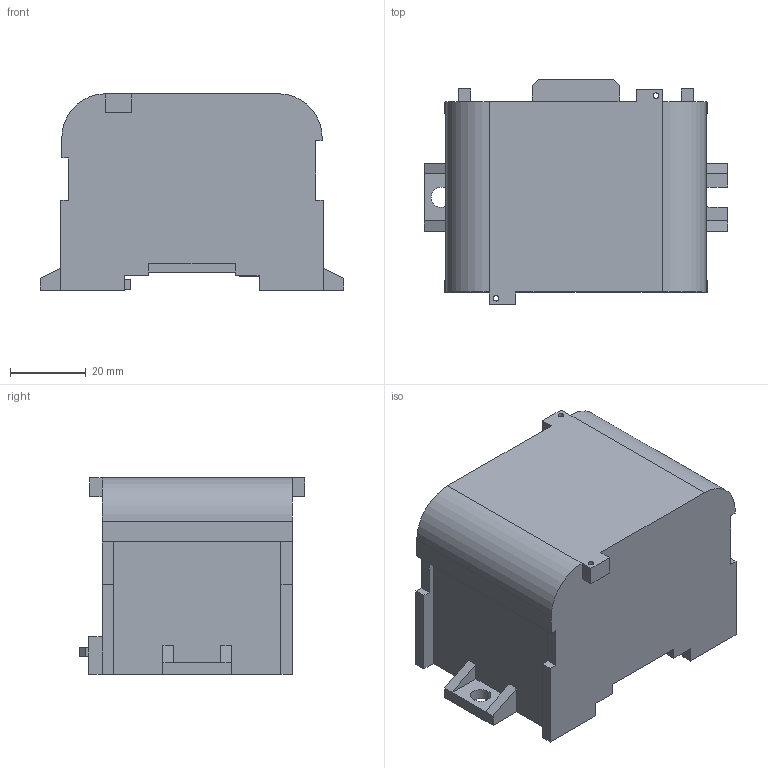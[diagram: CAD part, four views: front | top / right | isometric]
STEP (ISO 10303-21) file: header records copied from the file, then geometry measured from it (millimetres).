
FILE_DESCRIPTION(/* description */ ('Unknown'),/* implementation_level */ '2;1');
FILE_NAME(/* name */ 'DTB 120_8x16',/* time_stamp */ '2024-05-27T06:32:19+02:00',/* author */ ('Unknown'),/* organization */ ('Unknown'),/* preprocessor_version */ 'ST-DEVELOPER v19.4',/* originating_system */ 'Solid Edge',/* authorisation */ 'Unknown');
FILE_SCHEMA (('AUTOMOTIVE_DESIGN {1 0 10303 214 3 1 1}'));
Length unit declared in the file: millimetre
Products named in the file (1): DTB 120_8x16
Bounding box: 80.2 x 59.6 x 52 mm (x, y, z)
Volume: 143273.5 mm3; surface area: 23016.3 mm2
Topology: 1 solids, 1 shells, 118 faces, 338 edges, 225 vertices
Faces by surface type: plane 111, cylinder 7
Full cylindrical faces by diameter (mm): 1.5 x2, 5.4 x1
Entity records: 3788 total; most frequent: CARTESIAN_POINT 673, ORIENTED_EDGE 664, DIRECTION 584, EDGE_CURVE 332, LINE 318, VECTOR 318, VERTEX_POINT 222, AXIS2_PLACEMENT_3D 133
